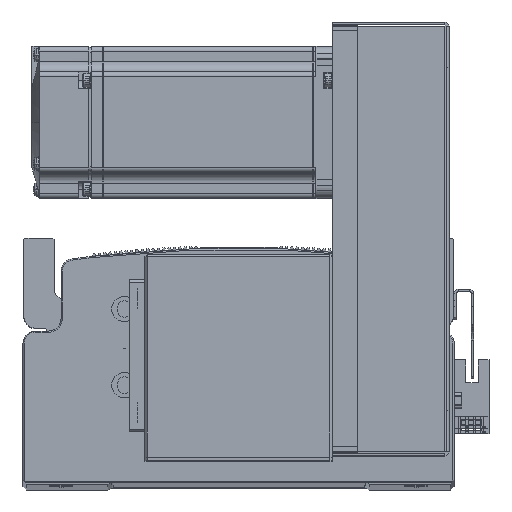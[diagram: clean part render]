
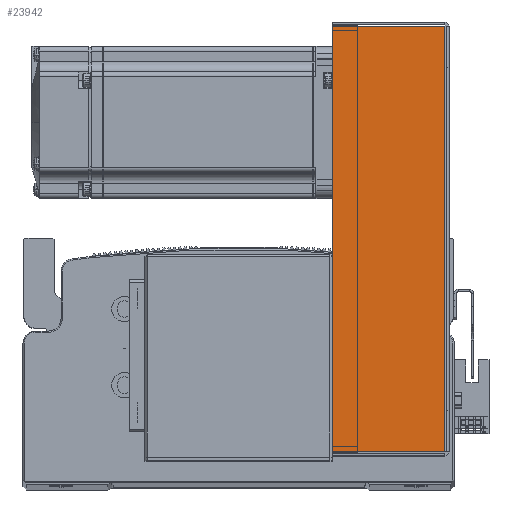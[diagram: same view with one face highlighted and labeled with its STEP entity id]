
A CAD part, top view. The second image highlights one B-rep face of the part: STEP entity #23942.
In plain terms, the highlighted planar face has unit normal (0, 0, 1).
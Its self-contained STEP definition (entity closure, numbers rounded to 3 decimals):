
#1731 = ORIENTED_EDGE ( 'NONE', *, *, #39130, .T. ) ;
#1812 = ORIENTED_EDGE ( 'NONE', *, *, #39133, .F. ) ;
#1819 = ORIENTED_EDGE ( 'NONE', *, *, #39148, .F. ) ;
#1876 = ORIENTED_EDGE ( 'NONE', *, *, #39132, .T. ) ;
#10140 = VERTEX_POINT ( 'NONE', #36004 ) ;
#10147 = VERTEX_POINT ( 'NONE', #35962 ) ;
#10178 = VERTEX_POINT ( 'NONE', #36048 ) ;
#10185 = VERTEX_POINT ( 'NONE', #36065 ) ;
#23942 = ADVANCED_FACE ( 'NONE', ( #65791 ), #61437, .F. ) ;
#31446 = AXIS2_PLACEMENT_3D ( 'NONE', #61513, #61566, #61591 ) ;
#35962 = CARTESIAN_POINT ( 'NONE',  ( 83.793, 0.737, 40.5 ) ) ;
#36004 = CARTESIAN_POINT ( 'NONE',  ( -83.793, 0.737, 40.5 ) ) ;
#36048 = CARTESIAN_POINT ( 'NONE',  ( 83.793, 45., 40.5 ) ) ;
#36065 = CARTESIAN_POINT ( 'NONE',  ( -83.793, 45., 40.5 ) ) ;
#39130 = EDGE_CURVE ( 'NONE', #10147, #10178, #45515, .T. ) ;
#39132 = EDGE_CURVE ( 'NONE', #10178, #10185, #45509, .T. ) ;
#39133 = EDGE_CURVE ( 'NONE', #10140, #10185, #45507, .T. ) ;
#39148 = EDGE_CURVE ( 'NONE', #10147, #10140, #45715, .T. ) ;
#44520 = CARTESIAN_POINT ( 'NONE',  ( -84.5, 45., 40.5 ) ) ;
#44526 = DIRECTION ( 'NONE',  ( 0., 1., 0. ) ) ;
#44534 = DIRECTION ( 'NONE',  ( 0., 1., 0. ) ) ;
#44552 = CARTESIAN_POINT ( 'NONE',  ( -83.793, 0., 40.5 ) ) ;
#44554 = DIRECTION ( 'NONE',  ( -1., 0., 0. ) ) ;
#44558 = CARTESIAN_POINT ( 'NONE',  ( 83.793, 0., 40.5 ) ) ;
#45507 = LINE ( 'NONE', #44552, #45539 ) ;
#45509 = LINE ( 'NONE', #44520, #45599 ) ;
#45515 = LINE ( 'NONE', #44558, #45601 ) ;
#45539 = VECTOR ( 'NONE', #44526, 1000. ) ;
#45599 = VECTOR ( 'NONE', #44554, 1000. ) ;
#45601 = VECTOR ( 'NONE', #44534, 1000. ) ;
#45693 = VECTOR ( 'NONE', #47058, 1000. ) ;
#45715 = LINE ( 'NONE', #47020, #45693 ) ;
#47020 = CARTESIAN_POINT ( 'NONE',  ( 0., 0.737, 40.5 ) ) ;
#47058 = DIRECTION ( 'NONE',  ( -1., 0., 0. ) ) ;
#60767 = EDGE_LOOP ( 'NONE', ( #1819, #1731, #1876, #1812 ) ) ;
#61437 = PLANE ( 'NONE',  #31446 ) ;
#61513 = CARTESIAN_POINT ( 'NONE',  ( 0., 0., 40.5 ) ) ;
#61566 = DIRECTION ( 'NONE',  ( 0., 0., -1. ) ) ;
#61591 = DIRECTION ( 'NONE',  ( -1., 0., 0. ) ) ;
#65791 = FACE_OUTER_BOUND ( 'NONE', #60767, .T. ) ;
